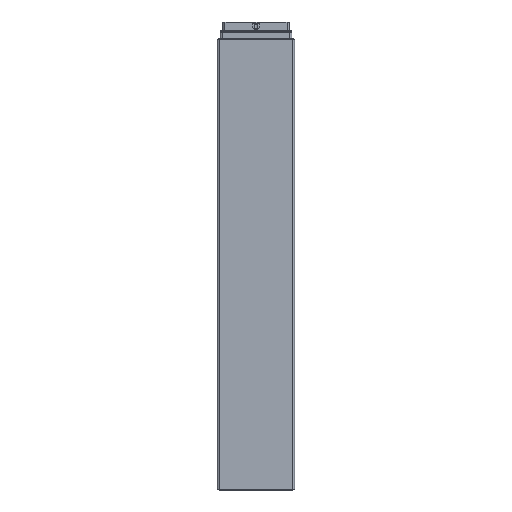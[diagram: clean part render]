
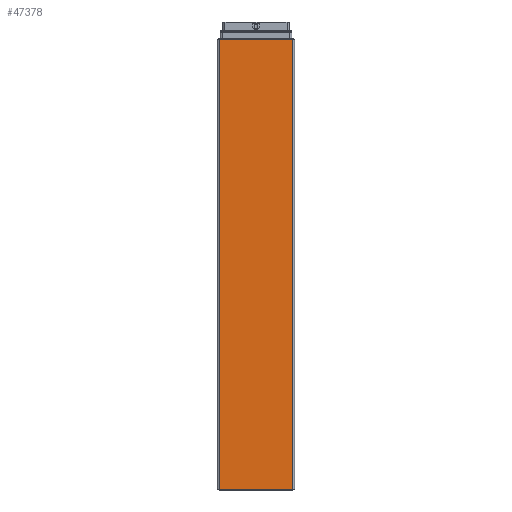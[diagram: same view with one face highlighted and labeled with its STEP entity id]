
A CAD part, top view. The second image highlights one B-rep face of the part: STEP entity #47378.
In plain terms, the highlighted planar face has unit normal (0, 0, 1).
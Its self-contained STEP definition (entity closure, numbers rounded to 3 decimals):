
#1837 = ORIENTED_EDGE ( 'NONE', *, *, #31297, .F. ) ;
#5662 = CARTESIAN_POINT ( 'NONE',  ( -46., 566., 33.5 ) ) ;
#6141 = ORIENTED_EDGE ( 'NONE', *, *, #44805, .F. ) ;
#6770 = VERTEX_POINT ( 'NONE', #46022 ) ;
#8517 = LINE ( 'NONE', #51135, #21476 ) ;
#10306 = PLANE ( 'NONE',  #41916 ) ;
#12922 = VERTEX_POINT ( 'NONE', #5662 ) ;
#20439 = EDGE_CURVE ( 'NONE', #12922, #6770, #68378, .T. ) ;
#21476 = VECTOR ( 'NONE', #56432, 1000. ) ;
#23081 = ORIENTED_EDGE ( 'NONE', *, *, #20439, .T. ) ;
#25297 = VECTOR ( 'NONE', #32313, 1000. ) ;
#25654 = EDGE_LOOP ( 'NONE', ( #53950, #1837, #6141, #23081 ) ) ;
#26482 = DIRECTION ( 'NONE',  ( 0., 0., -1. ) ) ;
#28968 = CARTESIAN_POINT ( 'NONE',  ( -46., 566., 33.5 ) ) ;
#29003 = CARTESIAN_POINT ( 'NONE',  ( 46., 566., 33.5 ) ) ;
#31297 = EDGE_CURVE ( 'NONE', #68475, #38000, #8517, .T. ) ;
#32313 = DIRECTION ( 'NONE',  ( 1., 0., 0. ) ) ;
#32744 = CARTESIAN_POINT ( 'NONE',  ( 46., 566., 33.5 ) ) ;
#38000 = VERTEX_POINT ( 'NONE', #66430 ) ;
#38105 = CARTESIAN_POINT ( 'NONE',  ( 46., 566., 33.5 ) ) ;
#39931 = LINE ( 'NONE', #38105, #25297 ) ;
#40232 = DIRECTION ( 'NONE',  ( 1., 0., 0. ) ) ;
#41916 = AXIS2_PLACEMENT_3D ( 'NONE', #32744, #26482, #43318 ) ;
#43318 = DIRECTION ( 'NONE',  ( -1., 0., 0. ) ) ;
#44805 = EDGE_CURVE ( 'NONE', #12922, #68475, #39931, .T. ) ;
#45279 = CARTESIAN_POINT ( 'NONE',  ( 46., 0., 33.5 ) ) ;
#46022 = CARTESIAN_POINT ( 'NONE',  ( -46., 0., 33.5 ) ) ;
#47378 = ADVANCED_FACE ( 'NONE', ( #56661 ), #10306, .F. ) ;
#50409 = VECTOR ( 'NONE', #40232, 1000. ) ;
#51135 = CARTESIAN_POINT ( 'NONE',  ( 46., 566., 33.5 ) ) ;
#52965 = LINE ( 'NONE', #45279, #50409 ) ;
#53950 = ORIENTED_EDGE ( 'NONE', *, *, #54144, .T. ) ;
#54144 = EDGE_CURVE ( 'NONE', #6770, #38000, #52965, .T. ) ;
#56432 = DIRECTION ( 'NONE',  ( 0., -1., 0. ) ) ;
#56661 = FACE_OUTER_BOUND ( 'NONE', #25654, .T. ) ;
#61922 = DIRECTION ( 'NONE',  ( 0., -1., 0. ) ) ;
#66430 = CARTESIAN_POINT ( 'NONE',  ( 46., 0., 33.5 ) ) ;
#68378 = LINE ( 'NONE', #28968, #70076 ) ;
#68475 = VERTEX_POINT ( 'NONE', #29003 ) ;
#70076 = VECTOR ( 'NONE', #61922, 1000. ) ;
